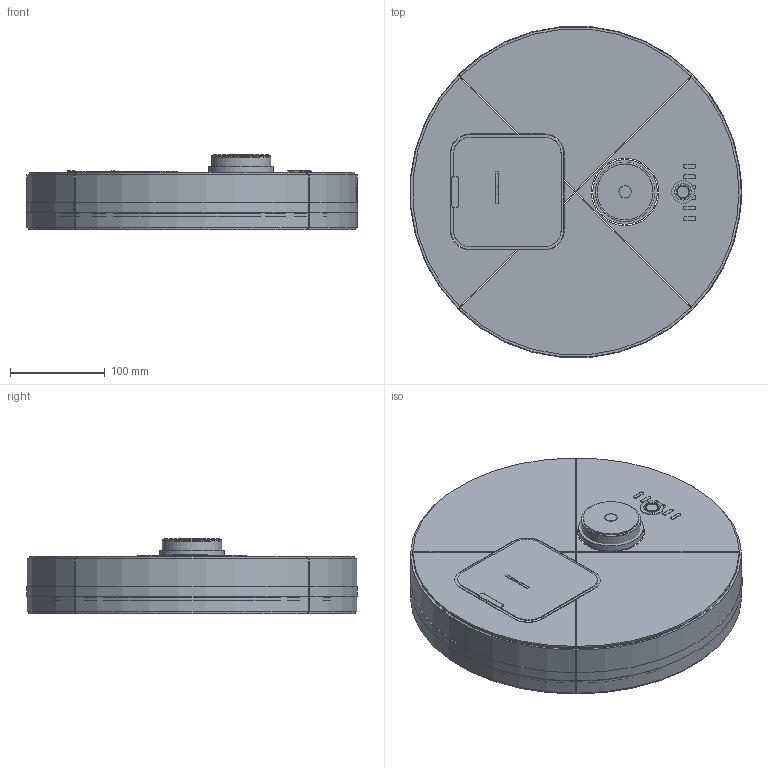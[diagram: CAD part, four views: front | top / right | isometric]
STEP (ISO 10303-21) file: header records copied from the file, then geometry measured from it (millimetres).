
FILE_DESCRIPTION(('FreeCAD Model'),'2;1');
FILE_NAME('Open CASCADE Shape Model','2026-10-27T15:01:02',('FreeCAD'),( 'FreeCAD'),'Open CASCADE STEP processor 7.8','FreeCAD','Unknown');
FILE_SCHEMA(('AUTOMOTIVE_DESIGN { 1 0 10303 214 1 1 1 1 }'));
Length unit declared in the file: millimetre
Products named in the file (1): Open CASCADE STEP translator 7.8 1
Bounding box: 348.84 x 348.18 x 79.75 mm (x, y, z)
Volume: 749697.3 mm3; surface area: 409498.9 mm2
Topology: 49 solids, 49 shells, 343 faces, 720 edges, 481 vertices
Faces by surface type: plane 224, cylinder 118, torus 1
Full cylindrical faces by diameter (mm): 4 x8, 12.4 x1, 13 x1, 13.8 x1, 17.2 x1, 23.2 x1, 24 x1, 27 x1, 32 x1, 58.6 x1, 58.8 x1, 62.4 x1, 68 x1, 71 x1
Entity records: 9506 total; most frequent: CARTESIAN_POINT 1937, DIRECTION 1634, ORIENTED_EDGE 1440, EDGE_CURVE 720, AXIS2_PLACEMENT_3D 578, VERTEX_POINT 481, LINE 478, VECTOR 478
